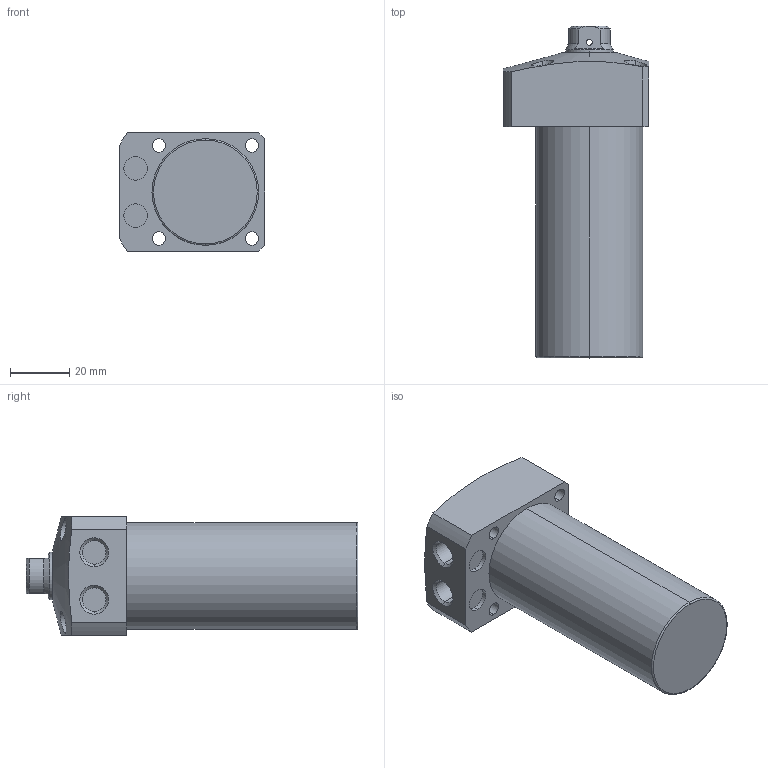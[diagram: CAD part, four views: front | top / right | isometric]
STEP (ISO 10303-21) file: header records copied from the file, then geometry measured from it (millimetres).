
FILE_DESCRIPTION (( 'STEP AP203' ), '1' );
FILE_NAME ('CLL-036CB-055.STEP', '2019-12-21T00:07:25', ( '' ), ( '' ), 'SwSTEP 2.0', 'SolidWorks 2015', '' );
FILE_SCHEMA (( 'CONFIG_CONTROL_DESIGN' ));
Length unit declared in the file: millimetre
Products named in the file (1): CLL-036CB-055
Bounding box: 49 x 112 x 40 mm (x, y, z)
Volume: 120814.5 mm3; surface area: 19029.7 mm2
Topology: 1 solids, 1 shells, 76 faces, 184 edges, 117 vertices
Faces by surface type: cylinder 38, plane 22, cone 14, torus 2
Entity records: 2699 total; most frequent: CARTESIAN_POINT 814, DIRECTION 386, ORIENTED_EDGE 364, EDGE_CURVE 182, AXIS2_PLACEMENT_3D 159, VERTEX_POINT 117, EDGE_LOOP 97, CIRCLE 82
